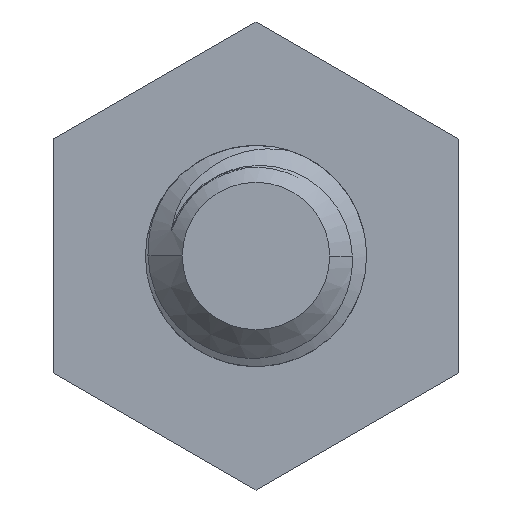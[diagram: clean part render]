
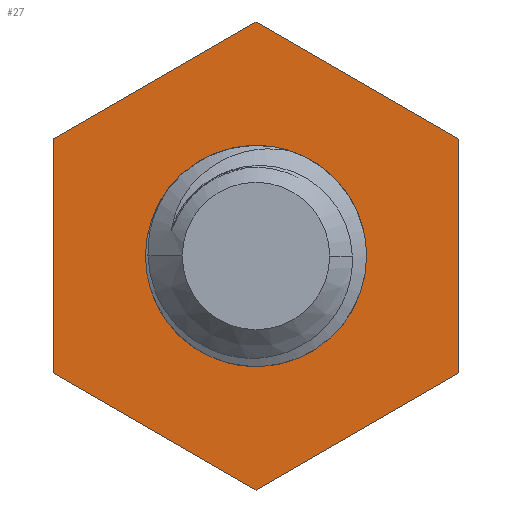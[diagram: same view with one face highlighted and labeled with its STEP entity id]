
A CAD part, front view. The second image highlights one B-rep face of the part: STEP entity #27.
In plain terms, the highlighted planar face has unit normal (0, -1, 0).
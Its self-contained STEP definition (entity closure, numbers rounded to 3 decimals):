
#27 = ADVANCED_FACE ( 'NONE', ( #774, #688 ), #3022, .F. ) ;
#454 = AXIS2_PLACEMENT_3D ( 'NONE', #3824, #3825, #3826 ) ;
#511 = AXIS2_PLACEMENT_3D ( 'NONE', #3634, #3635, #3636 ) ;
#544 = AXIS2_PLACEMENT_3D ( 'NONE', #3024, #3025, #3020 ) ;
#688 = FACE_BOUND ( 'NONE', #4353, .T. ) ;
#774 = FACE_OUTER_BOUND ( 'NONE', #4396, .T. ) ;
#1170 = CARTESIAN_POINT ( 'NONE',  ( -2.75, 0., -1.588 ) ) ;
#1171 = DIRECTION ( 'NONE',  ( 0., 0., 1. ) ) ;
#1349 = VECTOR ( 'NONE', #3866, 1000. ) ;
#1375 = LINE ( 'NONE', #3821, #1503 ) ;
#1377 = CIRCLE ( 'NONE', #454, 1.5 ) ;
#1391 = CIRCLE ( 'NONE', #511, 1.5 ) ;
#1423 = VECTOR ( 'NONE', #1171, 1000. ) ;
#1430 = LINE ( 'NONE', #1170, #1423 ) ;
#1439 = LINE ( 'NONE', #3778, #1482 ) ;
#1440 = VECTOR ( 'NONE', #3841, 1000. ) ;
#1482 = VECTOR ( 'NONE', #3827, 1000. ) ;
#1485 = LINE ( 'NONE', #3864, #1349 ) ;
#1486 = LINE ( 'NONE', #3879, #1504 ) ;
#1496 = LINE ( 'NONE', #3830, #1440 ) ;
#1503 = VECTOR ( 'NONE', #3845, 1000. ) ;
#1504 = VECTOR ( 'NONE', #3888, 1000. ) ;
#1960 = EDGE_CURVE ( 'NONE', #4417, #4425, #1391, .T. ) ;
#1993 = EDGE_CURVE ( 'NONE', #4425, #4417, #1377, .T. ) ;
#1998 = EDGE_CURVE ( 'NONE', #5579, #5640, #1439, .T. ) ;
#2001 = EDGE_CURVE ( 'NONE', #4659, #4643, #1496, .T. ) ;
#2003 = EDGE_CURVE ( 'NONE', #4643, #4674, #1375, .T. ) ;
#2006 = EDGE_CURVE ( 'NONE', #4474, #5579, #1485, .T. ) ;
#2011 = EDGE_CURVE ( 'NONE', #5640, #4659, #1486, .T. ) ;
#2106 = EDGE_CURVE ( 'NONE', #4674, #4474, #1430, .T. ) ;
#2496 = CARTESIAN_POINT ( 'NONE',  ( 1.5, 0., 0. ) ) ;
#2505 = CARTESIAN_POINT ( 'NONE',  ( -1.5, 0., 0. ) ) ;
#2535 = CARTESIAN_POINT ( 'NONE',  ( -2.75, 0., 1.588 ) ) ;
#2549 = CARTESIAN_POINT ( 'NONE',  ( 2.75, 0., -1.588 ) ) ;
#2554 = CARTESIAN_POINT ( 'NONE',  ( 0., 0., -3.175 ) ) ;
#2570 = CARTESIAN_POINT ( 'NONE',  ( -2.75, 0., -1.588 ) ) ;
#2582 = CARTESIAN_POINT ( 'NONE',  ( 0., 0., 3.175 ) ) ;
#2597 = CARTESIAN_POINT ( 'NONE',  ( 2.75, 0., 1.588 ) ) ;
#3020 = DIRECTION ( 'NONE',  ( -1., 0., 0. ) ) ;
#3022 = PLANE ( 'NONE',  #544 ) ;
#3024 = CARTESIAN_POINT ( 'NONE',  ( 1.5, 0., 0. ) ) ;
#3025 = DIRECTION ( 'NONE',  ( 0., 1., 0. ) ) ;
#3634 = CARTESIAN_POINT ( 'NONE',  ( 0., 0., 0. ) ) ;
#3635 = DIRECTION ( 'NONE',  ( 0., 1., 0. ) ) ;
#3636 = DIRECTION ( 'NONE',  ( -1., 0., 0. ) ) ;
#3778 = CARTESIAN_POINT ( 'NONE',  ( 0., 0., 3.175 ) ) ;
#3821 = CARTESIAN_POINT ( 'NONE',  ( 0., 0., -3.175 ) ) ;
#3824 = CARTESIAN_POINT ( 'NONE',  ( 0., 0., 0. ) ) ;
#3825 = DIRECTION ( 'NONE',  ( 0., 1., 0. ) ) ;
#3826 = DIRECTION ( 'NONE',  ( -1., 0., 0. ) ) ;
#3827 = DIRECTION ( 'NONE',  ( 0.866, 0., -0.5 ) ) ;
#3830 = CARTESIAN_POINT ( 'NONE',  ( 2.75, 0., -1.588 ) ) ;
#3841 = DIRECTION ( 'NONE',  ( -0.866, 0., -0.5 ) ) ;
#3845 = DIRECTION ( 'NONE',  ( -0.866, 0., 0.5 ) ) ;
#3864 = CARTESIAN_POINT ( 'NONE',  ( -2.75, 0., 1.588 ) ) ;
#3866 = DIRECTION ( 'NONE',  ( 0.866, 0., 0.5 ) ) ;
#3879 = CARTESIAN_POINT ( 'NONE',  ( 2.75, 0., 1.588 ) ) ;
#3888 = DIRECTION ( 'NONE',  ( 0., 0., -1. ) ) ;
#4353 = EDGE_LOOP ( 'NONE', ( #5558, #5586 ) ) ;
#4396 = EDGE_LOOP ( 'NONE', ( #4615, #4616, #4619, #4662, #4668, #5557 ) ) ;
#4417 = VERTEX_POINT ( 'NONE', #2496 ) ;
#4425 = VERTEX_POINT ( 'NONE', #2505 ) ;
#4474 = VERTEX_POINT ( 'NONE', #2535 ) ;
#4615 = ORIENTED_EDGE ( 'NONE', *, *, #1998, .F. ) ;
#4616 = ORIENTED_EDGE ( 'NONE', *, *, #2006, .F. ) ;
#4619 = ORIENTED_EDGE ( 'NONE', *, *, #2106, .F. ) ;
#4643 = VERTEX_POINT ( 'NONE', #2554 ) ;
#4659 = VERTEX_POINT ( 'NONE', #2549 ) ;
#4662 = ORIENTED_EDGE ( 'NONE', *, *, #2003, .F. ) ;
#4668 = ORIENTED_EDGE ( 'NONE', *, *, #2001, .F. ) ;
#4674 = VERTEX_POINT ( 'NONE', #2570 ) ;
#5557 = ORIENTED_EDGE ( 'NONE', *, *, #2011, .F. ) ;
#5558 = ORIENTED_EDGE ( 'NONE', *, *, #1993, .T. ) ;
#5579 = VERTEX_POINT ( 'NONE', #2582 ) ;
#5586 = ORIENTED_EDGE ( 'NONE', *, *, #1960, .T. ) ;
#5640 = VERTEX_POINT ( 'NONE', #2597 ) ;
